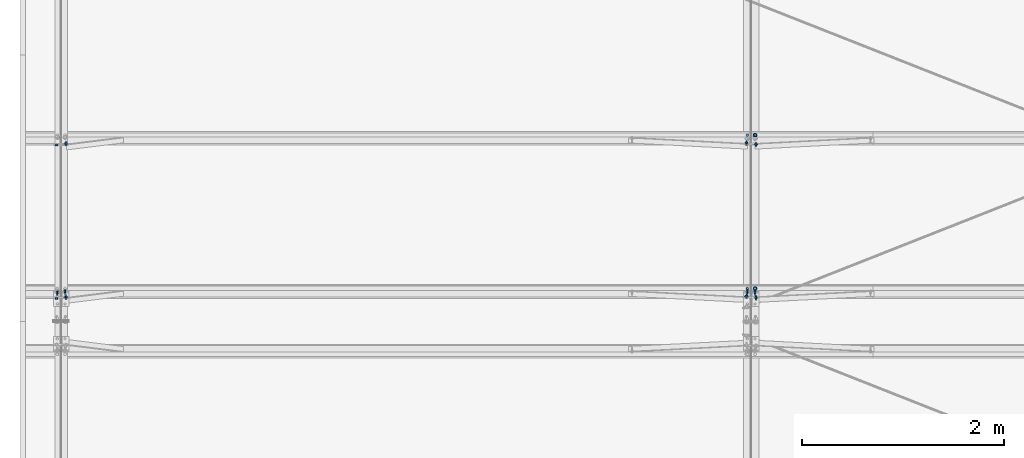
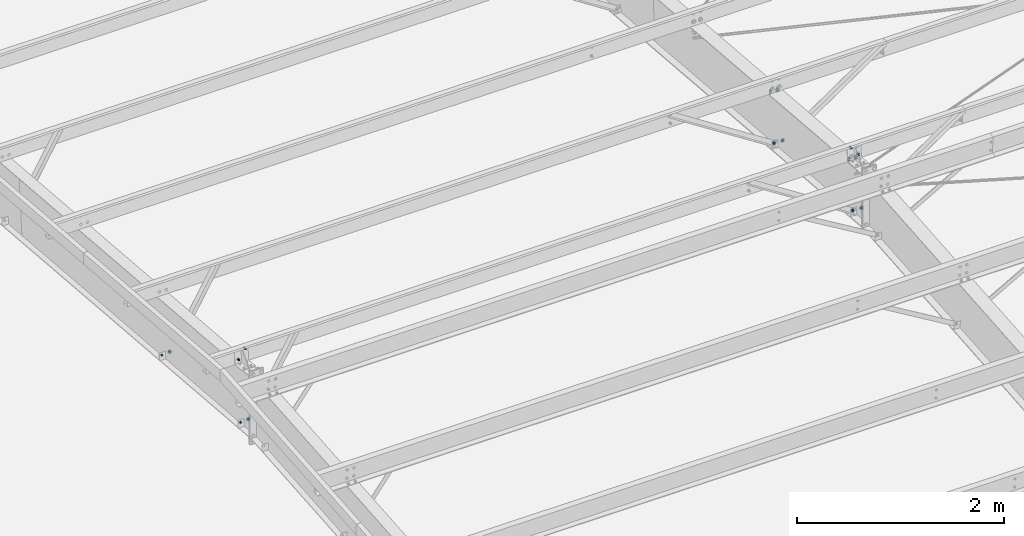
# One storey, part 143 of 185: 22 mechanical fasteners, 12 elements without a shape of their own.
"""IFC2X3 building model written with IfcOpenShell, lengths in millimetres."""

import ifcopenshell
import ifcopenshell.guid

model = None  # the IFC model being written
_history = None  # IfcOwnerHistory: only IFC2X3 demands one
_inside = {}  # id of a spatial element -> (the spatial element, [elements in it])
_under = {}  # id of a project, library or spatial element -> (it, [spatial elements below it])
_declared = {}  # id of a project -> (the project, [libraries it declares])
_typed = {}  # id of a type object -> (the type object, [elements of that type])
_made_of = {}  # id of a material, layer set ... -> (it, [elements and type objects made of it])


def new_model(schema):
    """Start an empty IFC model of exactly this schema.

    Asked for "IFC4X3", IfcOpenShell would pick the latest addendum, in which some entities
    have other attributes; the version numbers below select the first issue.
    IFC2X3 requires an IfcOwnerHistory on every rooted entity: one is made here for all.
    """
    global model, _history
    if schema == "IFC4X3":
        model = ifcopenshell.file(schema_version=(4, 3, 0, 0))
    else:
        model = ifcopenshell.file(schema=schema)
    _inside.clear()
    _under.clear()
    _declared.clear()
    _typed.clear()
    _made_of.clear()
    _history = None
    if model.schema == "IFC2X3":
        org = make("IfcOrganization", Name="unknown")
        user = make(
            "IfcPersonAndOrganization",
            ThePerson=make("IfcPerson", FamilyName="unknown"),
            TheOrganization=org,
        )
        app = make(
            "IfcApplication",
            ApplicationDeveloper=org,
            Version="unknown",
            ApplicationFullName="unknown",
            ApplicationIdentifier="unknown",
        )
        _history = make(
            "IfcOwnerHistory",
            OwningUser=user,
            OwningApplication=app,
            ChangeAction="ADDED",
            CreationDate=0,
        )
    return model


def make(cls, **values):
    """One entity of the class cls with the attributes given. An attribute that is None is left unset."""
    return model.create_entity(
        cls, **{name: value for name, value in values.items() if value is not None}
    )


def rooted(cls, **values):
    """An entity with a GlobalId (a new one), such as an element, a storey or a relation."""
    return make(cls, GlobalId=ifcopenshell.guid.new(), OwnerHistory=_history, **values)


def si_unit(unit_type, name, prefix=None):
    """IfcSIUnit, for example si_unit("LENGTHUNIT", "METRE", prefix="MILLI")."""
    return make("IfcSIUnit", UnitType=unit_type, Prefix=prefix, Name=name)


def assignment(units):
    """IfcUnitAssignment: the units of a project."""
    return None if units is None else make("IfcUnitAssignment", Units=units)


def point(xyz):
    """IfcCartesianPoint."""
    return None if xyz is None else make("IfcCartesianPoint", Coordinates=xyz)


def direction(xyz):
    """IfcDirection."""
    return None if xyz is None else make("IfcDirection", DirectionRatios=xyz)


def frame(location, z_axis=None, x_axis=None):
    """IfcAxis2Placement3D, a coordinate frame: its origin and axes. An axis left out is left unset."""
    return make(
        "IfcAxis2Placement3D",
        Location=point(location),
        Axis=direction(z_axis),
        RefDirection=direction(x_axis),
    )


def frame_2d(location, x_axis=None):
    """IfcAxis2Placement2D, a coordinate frame in the plane: its origin and x axis."""
    return make(
        "IfcAxis2Placement2D", Location=point(location), RefDirection=direction(x_axis)
    )


def origin_with_axes():
    """The frame at (0, 0, 0) with the z axis (0, 0, 1) and the x axis (1, 0, 0) written out."""
    return frame((0.0, 0.0, 0.0), z_axis=(0.0, 0.0, 1.0), x_axis=(1.0, 0.0, 0.0))


def origin_2d_with_axis():
    """The frame at (0, 0) in the plane with the x axis (1, 0) written out."""
    return frame_2d((0.0, 0.0), x_axis=(1.0, 0.0))


def place(relative_to, where):
    """IfcLocalPlacement: puts the frame where relative to a parent placement (None: the world)."""
    return make(
        "IfcLocalPlacement", PlacementRelTo=relative_to, RelativePlacement=where
    )


def context(
    kind, dimensions, precision=None, world=None, true_north=None, identifier=None
):
    """IfcGeometricRepresentationContext, for example the 3D "Model" context."""
    return make(
        "IfcGeometricRepresentationContext",
        ContextIdentifier=identifier,
        ContextType=kind,
        CoordinateSpaceDimension=dimensions,
        Precision=precision,
        WorldCoordinateSystem=world,
        TrueNorth=true_north,
    )


def subcontext(parent, identifier, kind, view, scale=None):
    """IfcGeometricRepresentationSubContext, for example "Body" below "Model"."""
    return make(
        "IfcGeometricRepresentationSubContext",
        ContextIdentifier=identifier,
        ContextType=kind,
        ParentContext=parent,
        TargetScale=scale,
        TargetView=view,
    )


def project(units=None, contexts=None):
    """IfcProject with its units and contexts."""
    return rooted(
        "IfcProject",
        Name="project",
        RepresentationContexts=contexts,
        UnitsInContext=assignment(units),
    )


def spatial(cls, under=None, at=None, **own):
    """A site, building, storey or space (cls), placed at a placement, below another one or the project."""
    s = rooted(cls, ObjectPlacement=at, **own)
    if under is not None:
        _under.setdefault(under.id(), (under, []))[1].append(s)
    return s


def polyline(points):
    """IfcPolyline through the points."""
    return make("IfcPolyline", Points=[point(p) for p in points])


def profile(cls, at=None, kind="AREA", **sizes):
    """A parametric profile (cls). Its sizes go by their IFC names, for example OverallWidth=200.0."""
    return make(cls, ProfileType=kind, Position=at, **sizes)


def circle(**sizes):
    """IfcCircleProfileDef."""
    return profile("IfcCircleProfileDef", **sizes)


def outline(outer, holes=None, kind="AREA"):
    """IfcArbitraryClosedProfileDef: a profile drawn as a closed curve; with holes, ...WithVoids."""
    if holes is None:
        return make("IfcArbitraryClosedProfileDef", ProfileType=kind, OuterCurve=outer)
    return make(
        "IfcArbitraryProfileDefWithVoids",
        ProfileType=kind,
        OuterCurve=outer,
        InnerCurves=holes,
    )


def extrude(swept, where, along, depth):
    """IfcExtrudedAreaSolid: the profile swept, set in the frame where, extruded along a direction by depth."""
    return make(
        "IfcExtrudedAreaSolid",
        SweptArea=swept,
        Position=where,
        ExtrudedDirection=direction(along),
        Depth=depth,
    )


def shape(context_of_items, identifier, shape_type, items):
    """IfcShapeRepresentation: the items that make up one representation, for example the "Body"."""
    return make(
        "IfcShapeRepresentation",
        ContextOfItems=context_of_items,
        RepresentationIdentifier=identifier,
        RepresentationType=shape_type,
        Items=items,
    )


def source(mapping_origin, context_of_items, identifier, shape_type, items):
    """IfcRepresentationMap: a shape defined once, which mapped items show again and again."""
    return make(
        "IfcRepresentationMap",
        MappingOrigin=mapping_origin,
        MappedRepresentation=shape(context_of_items, identifier, shape_type, items),
    )


def transform(
    local_origin,
    x_axis=None,
    y_axis=None,
    z_axis=None,
    scale=None,
    scale2=None,
    scale3=None,
    uniform=True,
):
    """IfcCartesianTransformationOperator3D, or its non-uniform kind. x_axis, y_axis, z_axis: its Axis1, 2, 3."""
    if uniform:
        return make(
            "IfcCartesianTransformationOperator3D",
            Axis1=direction(x_axis),
            Axis2=direction(y_axis),
            LocalOrigin=point(local_origin),
            Scale=scale,
            Axis3=direction(z_axis),
        )
    return make(
        "IfcCartesianTransformationOperator3DnonUniform",
        Axis1=direction(x_axis),
        Axis2=direction(y_axis),
        LocalOrigin=point(local_origin),
        Scale=scale,
        Axis3=direction(z_axis),
        Scale2=scale2,
        Scale3=scale3,
    )


def mapped(mapping_source, mapping_target):
    """IfcMappedItem: shows the shape of a source again, moved by a transform."""
    return make(
        "IfcMappedItem", MappingSource=mapping_source, MappingTarget=mapping_target
    )


def material(Name=None, Category=None):
    """IfcMaterial."""
    return make("IfcMaterial", Name=Name, Category=Category)


def made_of(thing, what):
    """Note that an element or type object is made of a material, layer set ...; save() writes the relation."""
    if what is not None:
        _made_of.setdefault(what.id(), (what, []))[1].append(thing)
    return thing


def type_object(cls, material=None, **own):
    """A type object (cls), such as IfcWallType, which elements share."""
    return made_of(rooted(cls, **own), material)


def element(
    cls,
    number,
    at=None,
    inside=None,
    cuts=None,
    type_object=None,
    material=None,
    context=None,
    identifier="Body",
    shape_type=None,
    held_by="IfcProductDefinitionShape",
    body=None,
    shapes=None,
    **own,
):
    """One element of the class cls, such as IfcWall. Its Tag is "e" and its number.

    at: its placement. inside: the storey or other place that contains it. cuts: it is an
    opening in that element (IfcRelVoidsElement). A single representation is given by context,
    identifier, shape_type and body (its items); several are given by shapes. held_by: the class
    of the entity that holds the representations. save() writes the other relations.
    """
    e = rooted(cls, Tag="e%d" % number, ObjectPlacement=at, **own)
    if body is not None:
        shapes = [shape(context, identifier, shape_type, body)]
    if shapes is not None:
        e.Representation = make(held_by, Representations=shapes)
    if inside is not None:
        _inside.setdefault(inside.id(), (inside, []))[1].append(e)
    if cuts is not None:
        rooted(
            "IfcRelVoidsElement", RelatingBuildingElement=cuts, RelatedOpeningElement=e
        )
    if type_object is not None:
        _typed.setdefault(type_object.id(), (type_object, []))[1].append(e)
    return made_of(e, material)


def aggregate(whole, parts):
    """IfcRelAggregates: a whole, such as a stair, and the parts it consists of."""
    return rooted("IfcRelAggregates", RelatingObject=whole, RelatedObjects=parts)


def save(model, path):
    """Write the relations noted so far, then the file.

    IfcRelAggregates (storeys below a building ...), IfcRelContainedInSpatialStructure (elements
    in a storey), IfcRelDefinesByType, IfcRelAssociatesMaterial and IfcRelDeclares: one each for
    every whole, place, type object, material and project.
    """
    for whole, parts in _under.values():
        aggregate(whole, parts)
    for where, things in _inside.values():
        rooted(
            "IfcRelContainedInSpatialStructure",
            RelatedElements=things,
            RelatingStructure=where,
        )
    for kind, things in _typed.values():
        rooted("IfcRelDefinesByType", RelatedObjects=things, RelatingType=kind)
    for what, things in _made_of.values():
        rooted("IfcRelAssociatesMaterial", RelatedObjects=things, RelatingMaterial=what)
    for by, libraries in _declared.values():
        rooted("IfcRelDeclares", RelatingContext=by, RelatedDefinitions=libraries)
    model.write(path)


model = new_model("IFC2X3")

# Units and contexts
model_context = context("Model", 3, precision=1e-05, world=origin_with_axes())
body_context = subcontext(model_context, "Body", "Model", "MODEL_VIEW")
ifc_project = project(units=[si_unit("LENGTHUNIT", "METRE", prefix="MILLI"), si_unit("AREAUNIT", "SQUARE_METRE"), si_unit("VOLUMEUNIT", "CUBIC_METRE"), si_unit("MASSUNIT", "GRAM", prefix="KILO"), si_unit("TIMEUNIT", "SECOND"), si_unit("PLANEANGLEUNIT", "RADIAN"), si_unit("SOLIDANGLEUNIT", "STERADIAN"), si_unit("THERMODYNAMICTEMPERATUREUNIT", "DEGREE_CELSIUS"), si_unit("LUMINOUSINTENSITYUNIT", "LUMEN")], contexts=[model_context])

# Site, building, storey
site_placement = place(None, origin_with_axes())
site = spatial("IfcSite", under=ifc_project, at=site_placement, Name="Undefined", CompositionType="ELEMENT")
building_placement = place(site_placement, origin_with_axes())
building = spatial("IfcBuilding", under=site, at=building_placement, Name="Undefined", CompositionType="ELEMENT")
storey_placement = place(building_placement, origin_with_axes())
storey = spatial("IfcBuildingStorey", under=building, at=storey_placement, Name="Undefined", CompositionType="ELEMENT", Elevation=0.0)

# Assembly, mechanical fastener
assembly_1_placement = place(storey_placement, origin_with_axes())
assembly_1 = element("IfcElementAssembly", 1, at=assembly_1_placement, inside=storey, Name="Steel Assembly", AssemblyPlace="NOTDEFINED", PredefinedType="RIGID_FRAME")
ifc_material_1 = material(Name="Undefined")
discrete_accessory_type = type_object("IfcDiscreteAccessoryType", Name="Bolt assembly")
shared_shape_1 = source(origin_with_axes(), body_context, "Body", "SweptSolid", [
    extrude(circle(Radius=7.14374971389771, at=origin_2d_with_axis()), frame((0.0, -1.59000001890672, 0.0), z_axis=(0.0, 1.0, 0.0), x_axis=(1.0, 0.0, 0.0)), (0.0, 0.0, 1.0), 1.7),
    extrude(outline(polyline([(10.9985221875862, 0.0), (5.4992610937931, 9.52499961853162), (-5.4992610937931, 9.52499961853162), (-10.9985221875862, 0.0), (-5.4992610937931, -9.52499961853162), (5.4992610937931, -9.52499961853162), (10.9985221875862, 0.0)])), frame((0.0, -15.0837496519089, 0.0), z_axis=(0.0, 1.0, 0.0), x_axis=(1.0, 0.0, 0.0)), (0.0, 0.0, 1.0), 9.5),
    extrude(circle(Radius=6.34999990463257, at=origin_2d_with_axis()), frame((0.0, -5.5587500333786, 0.0), z_axis=(0.0, 1.0, 0.0), x_axis=(1.0, 0.0, 0.0)), (0.0, 0.0, 1.0), 38.1),
    extrude(circle(Radius=13.4937496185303, at=origin_2d_with_axis()), frame((0.0, -5.5587500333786, 0.0), z_axis=(0.0, 1.0, 0.0), x_axis=(1.0, 0.0, 0.0)), (0.0, 0.0, 1.0), 4.0),
    extrude(circle(Radius=22.2250003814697, at=origin_2d_with_axis()), frame((0.0, 0.0, 0.0), z_axis=(0.0, 1.0, 0.0), x_axis=(1.0, 0.0, 0.0)), (0.0, 0.0, 1.0), 7.9),
    extrude(outline(polyline([(12.8316099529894, 0.0), (6.4158049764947, 11.1125001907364), (-6.4158049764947, 11.1125001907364), (-12.8316099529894, 0.0), (-6.4158049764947, -11.1125001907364), (6.4158049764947, -11.1125001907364), (12.8316099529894, 0.0)])), frame((0.0, 7.93750000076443, 0.0), z_axis=(0.0, 1.0, 0.0), x_axis=(1.0, 0.0, 0.0)), (0.0, 0.0, 1.0), 12.3),
])
mechanical_fastener_1_placement = place(assembly_1_placement, frame((7191.99394792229, 16242.6408740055, 6646.91759131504), z_axis=(-0.530152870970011, -0.0704144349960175, -0.844973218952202), x_axis=(-0.847902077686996, 0.0440267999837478, 0.52832159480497)))
mechanical_fastener_1 = element("IfcMechanicalFastener", 2, at=mechanical_fastener_1_placement, type_object=discrete_accessory_type, material=ifc_material_1, Name="Bolt assembly", NominalDiameter=12.6999998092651, NominalLength=38.0999984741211, context=body_context, shape_type="MappedRepresentation", body=[
    mapped(shared_shape_1, transform((0.0, 0.0, 0.0))),
])
aggregate(assembly_1, [mechanical_fastener_1])

assembly_2_placement = place(storey_placement, origin_with_axes())
assembly_2 = element("IfcElementAssembly", 3, at=assembly_2_placement, inside=storey, Name="Steel Assembly", AssemblyPlace="NOTDEFINED", PredefinedType="RIGID_FRAME")
mechanical_fastener_2_placement = place(assembly_2_placement, frame((7191.99394792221, 17761.3766095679, 6520.35628001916), z_axis=(-0.530152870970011, -0.0704144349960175, -0.844973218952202), x_axis=(-0.847902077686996, 0.0440267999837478, 0.52832159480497)))
mechanical_fastener_2 = element("IfcMechanicalFastener", 4, at=mechanical_fastener_2_placement, type_object=discrete_accessory_type, material=ifc_material_1, Name="Bolt assembly", NominalDiameter=12.6999998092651, NominalLength=38.0999984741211, context=body_context, shape_type="MappedRepresentation", body=[
    mapped(shared_shape_1, transform((0.0, 0.0, 0.0))),
])
aggregate(assembly_2, [mechanical_fastener_2])

assembly_3_placement = place(storey_placement, origin_with_axes())
assembly_3 = element("IfcElementAssembly", 5, at=assembly_3_placement, inside=storey, Name="Steel Assembly", AssemblyPlace="NOTDEFINED", PredefinedType="RIGID_FRAME")
mechanical_fastener_3_placement = place(assembly_3_placement, frame((453.111633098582, 16234.361480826, 6547.56487318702), z_axis=(-0.832860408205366, 0.0459642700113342, 0.551571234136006), x_axis=(0.553483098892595, 0.0691652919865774, 0.829983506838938)))
mechanical_fastener_3 = element("IfcMechanicalFastener", 6, at=mechanical_fastener_3_placement, type_object=discrete_accessory_type, material=ifc_material_1, Name="Bolt assembly", NominalDiameter=12.6999998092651, NominalLength=38.0999984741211, context=body_context, shape_type="MappedRepresentation", body=[
    mapped(shared_shape_1, transform((0.0, 0.0, 0.0))),
])
aggregate(assembly_3, [mechanical_fastener_3])

assembly_4_placement = place(storey_placement, origin_with_axes())
assembly_4 = element("IfcElementAssembly", 7, at=assembly_4_placement, inside=storey, Name="Steel Assembly", AssemblyPlace="NOTDEFINED", PredefinedType="RIGID_FRAME")
mechanical_fastener_4_placement = place(assembly_4_placement, frame((453.111633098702, 17753.0972163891, 6421.00356188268), z_axis=(-0.832860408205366, 0.0459642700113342, 0.551571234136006), x_axis=(0.553483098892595, 0.0691652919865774, 0.829983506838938)))
mechanical_fastener_4 = element("IfcMechanicalFastener", 8, at=mechanical_fastener_4_placement, type_object=discrete_accessory_type, material=ifc_material_1, Name="Bolt assembly", NominalDiameter=12.6999998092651, NominalLength=38.0999984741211, context=body_context, shape_type="MappedRepresentation", body=[
    mapped(shared_shape_1, transform((0.0, 0.0, 0.0))),
])
aggregate(assembly_4, [mechanical_fastener_4])

assembly_5_placement = place(storey_placement, origin_with_axes())
assembly_5 = element("IfcElementAssembly", 9, at=assembly_5_placement, inside=storey, Name="Steel Assembly", AssemblyPlace="NOTDEFINED", PredefinedType="RIGID_FRAME")
shared_shape_2 = source(origin_with_axes(), body_context, "Body", "SweptSolid", [
    extrude(circle(Radius=7.14374971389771, at=origin_2d_with_axis()), frame((0.0, 0.0, 0.0), z_axis=(0.0, 1.0, 0.0), x_axis=(1.0, 0.0, 0.0)), (0.0, 0.0, 1.0), 1.7),
    extrude(outline(polyline([(10.9985221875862, 0.0), (5.4992610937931, 9.52499961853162), (-5.4992610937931, 9.52499961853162), (-10.9985221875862, 0.0), (-5.4992610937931, -9.52499961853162), (5.4992610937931, -9.52499961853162), (10.9985221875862, 0.0)])), frame((0.0, -13.4937496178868, 0.0), z_axis=(0.0, 1.0, 0.0), x_axis=(1.0, 0.0, 0.0)), (0.0, 0.0, 1.0), 9.5),
    extrude(circle(Radius=6.34999990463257, at=origin_2d_with_axis()), frame((0.0, -3.96874999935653, 0.0), z_axis=(0.0, 1.0, 0.0), x_axis=(1.0, 0.0, 0.0)), (0.0, 0.0, 1.0), 38.1),
    extrude(circle(Radius=13.4937496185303, at=origin_2d_with_axis()), frame((0.0, -3.96874999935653, 0.0), z_axis=(0.0, 1.0, 0.0), x_axis=(1.0, 0.0, 0.0)), (0.0, 0.0, 1.0), 4.0),
    extrude(circle(Radius=22.2250003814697, at=origin_2d_with_axis()), frame((0.0, 1.5900000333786, 0.0), z_axis=(0.0, 1.0, 0.0), x_axis=(1.0, 0.0, 0.0)), (0.0, 0.0, 1.0), 7.9),
    extrude(outline(polyline([(12.8316099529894, 0.0), (6.4158049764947, 11.1125001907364), (-6.4158049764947, 11.1125001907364), (-12.8316099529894, 0.0), (-6.4158049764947, -11.1125001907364), (6.4158049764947, -11.1125001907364), (12.8316099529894, 0.0)])), frame((0.0, 9.5275000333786, 0.0), z_axis=(0.0, 1.0, 0.0), x_axis=(1.0, 0.0, 0.0)), (0.0, 0.0, 1.0), 12.3),
])
mechanical_fastener_5_placement = place(assembly_5_placement, frame((7286.00605207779, 17761.3766095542, 6520.35628002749), z_axis=(0.530152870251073, -0.0704144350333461, -0.844973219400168), x_axis=(0.847902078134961, 0.0440268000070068, 0.528321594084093)))
mechanical_fastener_5 = element("IfcMechanicalFastener", 10, at=mechanical_fastener_5_placement, type_object=discrete_accessory_type, material=ifc_material_1, Name="Bolt assembly", NominalDiameter=12.6999998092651, NominalLength=38.0999984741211, context=body_context, shape_type="MappedRepresentation", body=[
    mapped(shared_shape_2, transform((0.0, 0.0, 0.0))),
])
aggregate(assembly_5, [mechanical_fastener_5])

assembly_6_placement = place(storey_placement, origin_with_axes())
assembly_6 = element("IfcElementAssembly", 11, at=assembly_6_placement, inside=storey, Name="Steel Assembly", AssemblyPlace="NOTDEFINED", PredefinedType="RIGID_FRAME")
mechanical_fastener_6_placement = place(assembly_6_placement, frame((7286.00605207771, 16242.6408739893, 6646.91759132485), z_axis=(0.530152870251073, -0.0704144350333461, -0.844973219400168), x_axis=(0.847902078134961, 0.0440268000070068, 0.528321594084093)))
mechanical_fastener_6 = element("IfcMechanicalFastener", 12, at=mechanical_fastener_6_placement, type_object=discrete_accessory_type, material=ifc_material_1, Name="Bolt assembly", NominalDiameter=12.6999998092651, NominalLength=38.0999984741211, context=body_context, shape_type="MappedRepresentation", body=[
    mapped(shared_shape_2, transform((0.0, 0.0, 0.0))),
])
aggregate(assembly_6, [mechanical_fastener_6])

# Assembly, mechanical fasteners
assembly_7_placement = place(storey_placement, origin_with_axes())
assembly_7 = element("IfcElementAssembly", 13, at=assembly_7_placement, inside=storey, Name="Steel Assembly", AssemblyPlace="NOTDEFINED", PredefinedType="RIGID_FRAME")
ifc_material_2 = material(Name="7990")
shared_shape_3 = source(origin_with_axes(), body_context, "Body", "SweptSolid", [
    extrude(circle(Radius=7.14374971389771, at=origin_2d_with_axis()), frame((0.0, -3.41600000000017, 0.0), z_axis=(0.0, 1.0, 0.0), x_axis=(1.0, 0.0, 0.0)), (0.0, 0.0, 1.0), 3.5),
    extrude(circle(Radius=11.4299998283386, at=origin_2d_with_axis()), frame((0.0, 0.0, 0.0), z_axis=(0.0, 1.0, 0.0), x_axis=(1.0, 0.0, 0.0)), (0.0, 0.0, 1.0), 4.2),
    extrude(outline(polyline([(12.171698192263, 0.0), (6.08584909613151, 10.5409998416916), (-6.08584909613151, 10.5409998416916), (-12.171698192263, 0.0), (-6.08584909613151, -10.5409998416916), (6.08584909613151, -10.5409998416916), (12.171698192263, 0.0)])), frame((0.0, 4.1909999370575, 0.0), z_axis=(0.0, 1.0, 0.0), x_axis=(1.0, 0.0, 0.0)), (0.0, 0.0, 1.0), 8.4),
])
mechanical_fastener_7_placement = place(assembly_7_placement, frame((7285.15815, 16242.5968471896, 6646.38926973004), z_axis=(-0.921635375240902, -0.0322263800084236, -0.386716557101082), x_axis=(0.388056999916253, -0.0765376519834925, -0.918451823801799)))
mechanical_fastener_7 = element("IfcMechanicalFastener", 14, at=mechanical_fastener_7_placement, type_object=discrete_accessory_type, material=ifc_material_2, Name="Bolt assembly", NominalDiameter=12.6999998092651, NominalLength=38.0999984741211, context=body_context, shape_type="MappedRepresentation", body=[
    mapped(shared_shape_3, transform((0.0, 0.0, 0.0))),
])
mechanical_fastener_8_placement = place(assembly_7_placement, frame((7285.15815, 17761.3325827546, 6519.82795843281), z_axis=(-0.921635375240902, -0.0322263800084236, -0.386716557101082), x_axis=(0.388056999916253, -0.0765376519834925, -0.918451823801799)))
mechanical_fastener_8 = element("IfcMechanicalFastener", 15, at=mechanical_fastener_8_placement, type_object=discrete_accessory_type, material=ifc_material_2, Name="Bolt assembly", NominalDiameter=12.6999998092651, NominalLength=38.0999984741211, context=body_context, shape_type="MappedRepresentation", body=[
    mapped(shared_shape_3, transform((0.0, 0.0, 0.0))),
])

assembly_8_placement = place(storey_placement, origin_with_axes())
assembly_8 = element("IfcElementAssembly", 16, at=assembly_8_placement, inside=storey, Name="Steel Assembly", AssemblyPlace="NOTDEFINED", PredefinedType="RIGID_FRAME")
mechanical_fastener_9_placement = place(assembly_8_placement, frame((360.241850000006, 16234.2923155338, 6546.73488968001), z_axis=(-0.921635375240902, 0.0322263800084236, 0.386716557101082), x_axis=(-0.388056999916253, -0.0765376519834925, -0.918451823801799)))
mechanical_fastener_9 = element("IfcMechanicalFastener", 17, at=mechanical_fastener_9_placement, type_object=discrete_accessory_type, material=ifc_material_2, Name="Bolt assembly", NominalDiameter=12.6999998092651, NominalLength=38.0999984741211, context=body_context, shape_type="MappedRepresentation", body=[
    mapped(shared_shape_3, transform((0.0, 0.0, 0.0))),
])
mechanical_fastener_10_placement = place(assembly_8_placement, frame((360.241850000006, 17753.028051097, 6420.17357837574), z_axis=(-0.921635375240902, 0.0322263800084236, 0.386716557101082), x_axis=(-0.388056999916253, -0.0765376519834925, -0.918451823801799)))
mechanical_fastener_10 = element("IfcMechanicalFastener", 18, at=mechanical_fastener_10_placement, type_object=discrete_accessory_type, material=ifc_material_2, Name="Bolt assembly", NominalDiameter=12.6999998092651, NominalLength=38.0999984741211, context=body_context, shape_type="MappedRepresentation", body=[
    mapped(shared_shape_3, transform((0.0, 0.0, 0.0))),
])

# Mechanical fastener
shared_shape_4 = source(origin_with_axes(), body_context, "Body", "SweptSolid", [
    extrude(circle(Radius=7.14374971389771, at=origin_2d_with_axis()), frame((0.0, 0.0, 0.0), z_axis=(0.0, 1.0, 0.0), x_axis=(1.0, 0.0, 0.0)), (0.0, 0.0, 1.0), 3.5),
    extrude(circle(Radius=11.4299998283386, at=origin_2d_with_axis()), frame((0.0, 3.41600000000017, 0.0), z_axis=(0.0, 1.0, 0.0), x_axis=(1.0, 0.0, 0.0)), (0.0, 0.0, 1.0), 4.2),
    extrude(outline(polyline([(12.171698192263, 0.0), (6.08584909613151, 10.5409998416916), (-6.08584909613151, 10.5409998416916), (-12.171698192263, 0.0), (-6.08584909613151, -10.5409998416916), (6.08584909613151, -10.5409998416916), (12.171698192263, 0.0)])), frame((0.0, 7.60699993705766, 0.0), z_axis=(0.0, 1.0, 0.0), x_axis=(1.0, 0.0, 0.0)), (0.0, 0.0, 1.0), 8.4),
])
mechanical_fastener_11_placement = place(assembly_7_placement, frame((7192.84185, 16242.5968471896, 6646.38926973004), z_axis=(0.921635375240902, -0.0322263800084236, -0.386716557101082), x_axis=(-0.388056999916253, -0.0765376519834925, -0.918451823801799)))
mechanical_fastener_11 = element("IfcMechanicalFastener", 19, at=mechanical_fastener_11_placement, type_object=discrete_accessory_type, material=ifc_material_2, Name="Bolt assembly", NominalDiameter=12.6999998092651, NominalLength=38.0999984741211, context=body_context, shape_type="MappedRepresentation", body=[
    mapped(shared_shape_4, transform((0.0, 0.0, 0.0))),
])

mechanical_fastener_12_placement = place(assembly_7_placement, frame((7192.84185, 17761.3325827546, 6519.82795843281), z_axis=(0.921635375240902, -0.0322263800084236, -0.386716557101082), x_axis=(-0.388056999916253, -0.0765376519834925, -0.918451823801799)))
mechanical_fastener_12 = element("IfcMechanicalFastener", 20, at=mechanical_fastener_12_placement, type_object=discrete_accessory_type, material=ifc_material_2, Name="Bolt assembly", NominalDiameter=12.6999998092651, NominalLength=38.0999984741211, context=body_context, shape_type="MappedRepresentation", body=[
    mapped(shared_shape_4, transform((0.0, 0.0, 0.0))),
])

aggregate(assembly_7, [mechanical_fastener_11, mechanical_fastener_7, mechanical_fastener_12, mechanical_fastener_8])

mechanical_fastener_13_placement = place(assembly_8_placement, frame((452.558150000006, 16234.2923155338, 6546.73488968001), z_axis=(0.921635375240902, 0.0322263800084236, 0.386716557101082), x_axis=(0.388056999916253, -0.0765376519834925, -0.918451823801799)))
mechanical_fastener_13 = element("IfcMechanicalFastener", 21, at=mechanical_fastener_13_placement, type_object=discrete_accessory_type, material=ifc_material_2, Name="Bolt assembly", NominalDiameter=12.6999998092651, NominalLength=38.0999984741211, context=body_context, shape_type="MappedRepresentation", body=[
    mapped(shared_shape_4, transform((0.0, 0.0, 0.0))),
])

mechanical_fastener_14_placement = place(assembly_8_placement, frame((452.558150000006, 17753.028051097, 6420.17357837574), z_axis=(0.921635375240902, 0.0322263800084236, 0.386716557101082), x_axis=(0.388056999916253, -0.0765376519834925, -0.918451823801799)))
mechanical_fastener_14 = element("IfcMechanicalFastener", 22, at=mechanical_fastener_14_placement, type_object=discrete_accessory_type, material=ifc_material_2, Name="Bolt assembly", NominalDiameter=12.6999998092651, NominalLength=38.0999984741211, context=body_context, shape_type="MappedRepresentation", body=[
    mapped(shared_shape_4, transform((0.0, 0.0, 0.0))),
])

aggregate(assembly_8, [mechanical_fastener_13, mechanical_fastener_9, mechanical_fastener_14, mechanical_fastener_10])

# Assembly, mechanical fasteners
assembly_9_placement = place(storey_placement, origin_with_axes())
assembly_9 = element("IfcElementAssembly", 23, at=assembly_9_placement, inside=storey, Name="Steel Assembly", AssemblyPlace="NOTDEFINED", PredefinedType="RIGID_FRAME")
shared_shape_5 = source(origin_with_axes(), body_context, "Body", "SweptSolid", [
    extrude(circle(Radius=7.14374971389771, at=origin_2d_with_axis()), frame((0.0, 0.0, 0.0), z_axis=(0.0, 1.0, 0.0), x_axis=(1.0, 0.0, 0.0)), (0.0, 0.0, 1.0), 6.5),
    extrude(outline(polyline([(10.9985221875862, 0.0), (5.4992610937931, 9.52499961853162), (-5.4992610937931, 9.52499961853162), (-10.9985221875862, 0.0), (-5.4992610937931, -9.52499961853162), (5.4992610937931, -9.52499961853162), (10.9985221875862, 0.0)])), frame((0.0, -13.4937496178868, 0.0), z_axis=(0.0, 1.0, 0.0), x_axis=(1.0, 0.0, 0.0)), (0.0, 0.0, 1.0), 9.5),
    extrude(circle(Radius=6.34999990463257, at=origin_2d_with_axis()), frame((0.0, -3.96874999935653, 0.0), z_axis=(0.0, 1.0, 0.0), x_axis=(1.0, 0.0, 0.0)), (0.0, 0.0, 1.0), 38.1),
    extrude(circle(Radius=13.4937496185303, at=origin_2d_with_axis()), frame((0.0, -3.96874999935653, 0.0), z_axis=(0.0, 1.0, 0.0), x_axis=(1.0, 0.0, 0.0)), (0.0, 0.0, 1.0), 4.0),
    extrude(outline(polyline([(12.8316099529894, 0.0), (6.4158049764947, 11.1125001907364), (-6.4158049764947, 11.1125001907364), (-12.8316099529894, 0.0), (-6.4158049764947, -11.1125001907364), (6.4158049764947, -11.1125001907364), (12.8316099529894, 0.0)])), frame((0.0, 6.35000000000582, 0.0), z_axis=(0.0, 1.0, 0.0), x_axis=(1.0, 0.0, 0.0)), (0.0, 0.0, 1.0), 12.3),
])
mechanical_fastener_15_placement = place(assembly_9_placement, frame((7277.1, 16293.0905915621, 7252.31420217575), z_axis=(-1.0, 0.0, 0.0), x_axis=(0.0, -0.0830454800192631, -0.996545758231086)))
mechanical_fastener_15 = element("IfcMechanicalFastener", 24, at=mechanical_fastener_15_placement, type_object=discrete_accessory_type, material=ifc_material_1, Name="Bolt assembly", NominalDiameter=12.6999998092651, NominalLength=38.0999984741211, context=body_context, shape_type="MappedRepresentation", body=[
    mapped(shared_shape_5, transform((0.0, 0.0, 0.0))),
])
mechanical_fastener_16_placement = place(assembly_9_placement, frame((7200.9, 16301.5280123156, 7353.56325121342), z_axis=(-1.0, 0.0, 0.0), x_axis=(0.0, -0.0830454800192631, -0.996545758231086)))
mechanical_fastener_16 = element("IfcMechanicalFastener", 25, at=mechanical_fastener_16_placement, type_object=discrete_accessory_type, material=ifc_material_1, Name="Bolt assembly", NominalDiameter=12.6999998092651, NominalLength=38.0999984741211, context=body_context, shape_type="MappedRepresentation", body=[
    mapped(shared_shape_5, transform((0.0, 0.0, 0.0))),
])
aggregate(assembly_9, [mechanical_fastener_15, mechanical_fastener_16])

assembly_10_placement = place(storey_placement, origin_with_axes())
assembly_10 = element("IfcElementAssembly", 26, at=assembly_10_placement, inside=storey, Name="Steel Assembly", AssemblyPlace="NOTDEFINED", PredefinedType="RIGID_FRAME")
mechanical_fastener_17_placement = place(assembly_10_placement, frame((368.300000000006, 16293.0905915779, 7252.31420222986), z_axis=(-1.0, 0.0, 0.0), x_axis=(0.0, -0.0830454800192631, -0.996545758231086)))
mechanical_fastener_17 = element("IfcMechanicalFastener", 27, at=mechanical_fastener_17_placement, type_object=discrete_accessory_type, material=ifc_material_1, Name="Bolt assembly", NominalDiameter=12.6999998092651, NominalLength=38.0999984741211, context=body_context, shape_type="MappedRepresentation", body=[
    mapped(shared_shape_5, transform((0.0, 0.0, 0.0))),
])
mechanical_fastener_18_placement = place(assembly_10_placement, frame((444.500000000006, 16301.5280123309, 7353.56325126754), z_axis=(-1.0, 0.0, 0.0), x_axis=(0.0, -0.0830454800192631, -0.996545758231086)))
mechanical_fastener_18 = element("IfcMechanicalFastener", 28, at=mechanical_fastener_18_placement, type_object=discrete_accessory_type, material=ifc_material_1, Name="Bolt assembly", NominalDiameter=12.6999998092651, NominalLength=38.0999984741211, context=body_context, shape_type="MappedRepresentation", body=[
    mapped(shared_shape_5, transform((0.0, 0.0, 0.0))),
])
aggregate(assembly_10, [mechanical_fastener_17, mechanical_fastener_18])

# Assembly, mechanical fastener
assembly_11_placement = place(storey_placement, origin_with_axes())
assembly_11 = element("IfcElementAssembly", 29, at=assembly_11_placement, inside=storey, Name="Steel Assembly", AssemblyPlace="NOTDEFINED", PredefinedType="RIGID_FRAME")
shared_shape_6 = source(origin_with_axes(), body_context, "Body", "SweptSolid", [
    extrude(circle(Radius=7.14374971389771, at=origin_2d_with_axis()), frame((0.0, -0.0238014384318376, 0.0), z_axis=(0.0, 1.0, 0.0), x_axis=(1.0, 0.0, 0.0)), (0.0, 0.0, 1.0), 8.0),
    extrude(circle(Radius=7.14374971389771, at=origin_2d_with_axis()), frame((0.0, -3.08000006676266, 0.0), z_axis=(0.0, 1.0, 0.0), x_axis=(1.0, 0.0, 0.0)), (0.0, 0.0, 1.0), 3.2),
    extrude(circle(Radius=7.14374971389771, at=origin_2d_with_axis()), frame((0.0, -3.08000006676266, 0.0), z_axis=(0.0, 1.0, 0.0), x_axis=(1.0, 0.0, 0.0)), (0.0, 0.0, 1.0), 3.2),
    extrude(outline(polyline([(10.9985221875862, 0.0), (5.4992610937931, 9.52499961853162), (-5.4992610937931, 9.52499961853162), (-10.9985221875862, 0.0), (-5.4992610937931, -9.52499961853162), (5.4992610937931, -9.52499961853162), (10.9985221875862, 0.0)])), frame((0.0, -16.6737496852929, 0.0), z_axis=(0.0, 1.0, 0.0), x_axis=(1.0, 0.0, 0.0)), (0.0, 0.0, 1.0), 9.5),
    extrude(circle(Radius=6.34999990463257, at=origin_2d_with_axis()), frame((0.0, -7.14875006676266, 0.0), z_axis=(0.0, 1.0, 0.0), x_axis=(1.0, 0.0, 0.0)), (0.0, 0.0, 1.0), 38.1),
    extrude(circle(Radius=13.4937496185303, at=origin_2d_with_axis()), frame((0.0, -7.14875006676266, 0.0), z_axis=(0.0, 1.0, 0.0), x_axis=(1.0, 0.0, 0.0)), (0.0, 0.0, 1.0), 4.0),
    extrude(circle(Radius=22.2250003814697, at=origin_2d_with_axis()), frame((0.0, 7.95019856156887, 0.0), z_axis=(0.0, 1.0, 0.0), x_axis=(1.0, 0.0, 0.0)), (0.0, 0.0, 1.0), 7.9),
    extrude(outline(polyline([(12.8316099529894, 0.0), (6.4158049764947, 11.1125001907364), (-6.4158049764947, 11.1125001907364), (-12.8316099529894, 0.0), (-6.4158049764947, -11.1125001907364), (6.4158049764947, -11.1125001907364), (12.8316099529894, 0.0)])), frame((0.0, 15.8876985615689, 0.0), z_axis=(0.0, 1.0, 0.0), x_axis=(1.0, 0.0, 0.0)), (0.0, 0.0, 1.0), 12.3),
])
mechanical_fastener_19_placement = place(assembly_11_placement, frame((7277.1, 16326.8402745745, 7198.52564487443), z_axis=(-1.0, 0.0, 0.0), x_axis=(0.0, 0.996545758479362, -0.0830454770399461)))
mechanical_fastener_19 = element("IfcMechanicalFastener", 30, at=mechanical_fastener_19_placement, type_object=discrete_accessory_type, material=ifc_material_1, Name="Bolt assembly", NominalDiameter=12.6999998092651, NominalLength=38.0999984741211, context=body_context, shape_type="MappedRepresentation", body=[
    mapped(shared_shape_6, transform((0.0, 0.0, 0.0))),
])

assembly_12_placement = place(storey_placement, origin_with_axes())
assembly_12 = element("IfcElementAssembly", 31, at=assembly_12_placement, inside=storey, Name="Steel Assembly", AssemblyPlace="NOTDEFINED", PredefinedType="RIGID_FRAME")
mechanical_fastener_20_placement = place(assembly_12_placement, frame((7277.1, 17845.5760101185, 7071.96433332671), z_axis=(-1.0, 0.0, 0.0), x_axis=(0.0, 0.996545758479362, -0.0830454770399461)))
mechanical_fastener_20 = element("IfcMechanicalFastener", 32, at=mechanical_fastener_20_placement, type_object=discrete_accessory_type, material=ifc_material_1, Name="Bolt assembly", NominalDiameter=12.6999998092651, NominalLength=38.0999984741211, context=body_context, shape_type="MappedRepresentation", body=[
    mapped(shared_shape_6, transform((0.0, 0.0, 0.0))),
])

# Mechanical fastener
shared_shape_7 = source(origin_with_axes(), body_context, "Body", "SweptSolid", [
    extrude(circle(Radius=7.14374971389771, at=origin_2d_with_axis()), frame((0.0, -0.0238014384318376, 0.0), z_axis=(0.0, 1.0, 0.0), x_axis=(1.0, 0.0, 0.0)), (0.0, 0.0, 1.0), 8.0),
    extrude(circle(Radius=7.14374971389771, at=origin_2d_with_axis()), frame((0.0, -3.08000006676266, 0.0), z_axis=(0.0, 1.0, 0.0), x_axis=(1.0, 0.0, 0.0)), (0.0, 0.0, 1.0), 3.2),
    extrude(circle(Radius=7.14374971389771, at=origin_2d_with_axis()), frame((0.0, -3.08000006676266, 0.0), z_axis=(0.0, 1.0, 0.0), x_axis=(1.0, 0.0, 0.0)), (0.0, 0.0, 1.0), 3.2),
    extrude(outline(polyline([(10.9985221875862, 0.0), (5.4992610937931, 9.52499961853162), (-5.4992610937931, 9.52499961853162), (-10.9985221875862, 0.0), (-5.4992610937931, -9.52499961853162), (5.4992610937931, -9.52499961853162), (10.9985221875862, 0.0)])), frame((0.0, -16.6737496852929, 0.0), z_axis=(0.0, 1.0, 0.0), x_axis=(1.0, 0.0, 0.0)), (0.0, 0.0, 1.0), 9.5),
    extrude(circle(Radius=6.34999990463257, at=origin_2d_with_axis()), frame((0.0, -7.14875006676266, 0.0), z_axis=(0.0, 1.0, 0.0), x_axis=(1.0, 0.0, 0.0)), (0.0, 0.0, 1.0), 38.1),
    extrude(circle(Radius=13.4937496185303, at=origin_2d_with_axis()), frame((0.0, -7.14875006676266, 0.0), z_axis=(0.0, 1.0, 0.0), x_axis=(1.0, 0.0, 0.0)), (0.0, 0.0, 1.0), 4.0),
    extrude(outline(polyline([(12.8316099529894, 0.0), (6.4158049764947, 11.1125001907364), (-6.4158049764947, 11.1125001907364), (-12.8316099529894, 0.0), (-6.4158049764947, -11.1125001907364), (6.4158049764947, -11.1125001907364), (12.8316099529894, 0.0)])), frame((0.0, 7.95019856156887, 0.0), z_axis=(0.0, 1.0, 0.0), x_axis=(1.0, 0.0, 0.0)), (0.0, 0.0, 1.0), 12.3),
])
mechanical_fastener_21_placement = place(assembly_11_placement, frame((7200.9, 16326.8402745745, 7198.52564487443), z_axis=(-1.0, 0.0, 0.0), x_axis=(0.0, 0.996545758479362, -0.0830454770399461)))
mechanical_fastener_21 = element("IfcMechanicalFastener", 33, at=mechanical_fastener_21_placement, type_object=discrete_accessory_type, material=ifc_material_1, Name="Bolt assembly", NominalDiameter=12.6999998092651, NominalLength=38.0999984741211, context=body_context, shape_type="MappedRepresentation", body=[
    mapped(shared_shape_7, transform((0.0, 0.0, 0.0))),
])

aggregate(assembly_11, [mechanical_fastener_19, mechanical_fastener_21])

mechanical_fastener_22_placement = place(assembly_12_placement, frame((7200.9, 17845.5760101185, 7071.96433332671), z_axis=(-1.0, 0.0, 0.0), x_axis=(0.0, 0.996545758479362, -0.0830454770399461)))
mechanical_fastener_22 = element("IfcMechanicalFastener", 34, at=mechanical_fastener_22_placement, type_object=discrete_accessory_type, material=ifc_material_1, Name="Bolt assembly", NominalDiameter=12.6999998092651, NominalLength=38.0999984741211, context=body_context, shape_type="MappedRepresentation", body=[
    mapped(shared_shape_7, transform((0.0, 0.0, 0.0))),
])

aggregate(assembly_12, [mechanical_fastener_20, mechanical_fastener_22])

save(model, "model.ifc")
